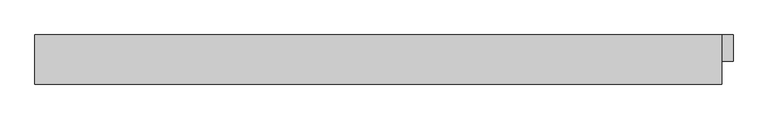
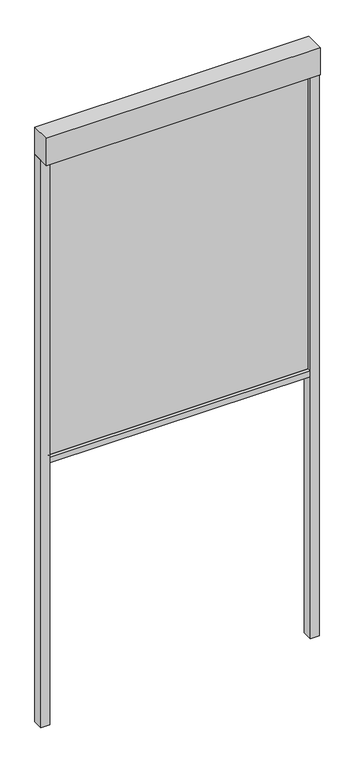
"""IFC4 building model written with IfcOpenShell, lengths in millimetres: proxy geometry, Renson_Fixscreen_Minimal_CW50_Start : For curtain wall - Start element - Access downwards - Fabric close to the window."""

from ifc_helpers import new_model, si_unit, point, frame, frame_2d, origin, origin_with_axes, place, context, project, spatial, polyline, circle_curve, trimmed, segment, composite_curve, outline, extrude, source, transform, mapped, element, save


def generic_models_2005cc21(model_context):
    return source(origin(), model_context, "Body", "SweptSolid", [
        extrude(outline(polyline([(-970.0, -751.5959909), (-1020.0, -751.5959909), (-1020.0, -693.5959909), (-970.0, -693.5959909), (-970.0, -751.5959909)])), origin_with_axes(), (0.0, 0.0, 1.0), 3340.0),
        extrude(outline(polyline([(530.0, -751.5959909), (480.0, -751.5959909), (480.0, -693.5959909), (530.0, -693.5959909), (530.0, -751.5959909)])), origin_with_axes(), (0.0, 0.0, 1.0), 3340.0),
        extrude(outline(polyline([(-1020.0, -693.5959909), (505.0, -693.5959909), (505.0, -803.5959909), (-1020.0, -803.5959909), (-1020.0, -693.5959909)])), frame((0.0, 0.0, 3340.0), z_axis=(0.0, 0.0, 1.0), x_axis=(1.0, 0.0, 0.0)), (0.0, 0.0, 1.0), 160.0),
        extrude(outline(composite_curve([segment(polyline([(-708.5959909, 1540.0), (-749.0958874, 1540.0), (-749.0958874, 1574.1156826), (-731.9717779, 1575.0000198)]), True, "CONTINUOUS"), segment(trimmed(circle_curve(frame_2d((-731.9459909, 1574.5006852)), 0.5), [point((-731.9717779, 1575.0000198))], [point((-731.4459909, 1574.5006852))], False, "CARTESIAN"), True, "CONTINUOUS"), segment(polyline([(-731.4459909, 1574.5006852), (-731.4459909, 1573.5367989), (-732.7111292, 1573.5367989), (-731.9708257, 1569.0119223)]), True, "CONTINUOUS"), segment(trimmed(circle_curve(frame_2d((-771.4459909, 1562.5534911)), 40.0), [point((-731.9708257, 1569.0119223))], [point((-731.4459909, 1562.5534911))], False, "CARTESIAN"), True, "CONTINUOUS"), segment(polyline([(-731.4459909, 1562.5534911), (-731.4459909, 1554.5006852)]), True, "CONTINUOUS"), segment(trimmed(circle_curve(frame_2d((-729.4459909, 1554.5006852)), 2.0), [point((-731.4459909, 1554.5006852))], [point((-729.4459909, 1552.5006852))], True, "CARTESIAN"), True, "CONTINUOUS"), segment(polyline([(-729.4459909, 1552.5006852), (-727.7459909, 1552.5006852)]), True, "CONTINUOUS"), segment(trimmed(circle_curve(frame_2d((-727.7459909, 1554.5006852)), 2.0), [point((-727.7459909, 1552.5006852))], [point((-725.7459909, 1554.5006852))], True, "CARTESIAN"), True, "CONTINUOUS"), segment(polyline([(-725.7459909, 1554.5006852), (-725.7459909, 1562.5534911)]), True, "CONTINUOUS"), segment(trimmed(circle_curve(frame_2d((-685.7459909, 1562.5534911)), 40.0), [point((-725.7459909, 1562.5534911))], [point((-725.221156, 1569.0119223))], False, "CARTESIAN"), True, "CONTINUOUS"), segment(polyline([(-725.221156, 1569.0119223), (-724.4808525, 1573.5367989), (-725.7459909, 1573.5367989), (-725.7459909, 1574.5006852)]), True, "CONTINUOUS"), segment(trimmed(circle_curve(frame_2d((-725.2459909, 1574.5006852)), 0.5), [point((-725.7459909, 1574.5006852))], [point((-725.2194276, 1574.9999791))], False, "CARTESIAN"), True, "CONTINUOUS"), segment(polyline([(-725.2194276, 1574.9999791), (-708.5959909, 1574.1156826), (-708.5959909, 1540.0)]), True, "CONTINUOUS")], self_intersect=False)), frame((-970.0, 0.0, 0.0), z_axis=(1.0, 0.0, 0.0), x_axis=(0.0, 1.0, 0.0)), (0.0, 0.0, 1.0), 1450.0),
        extrude(outline(polyline([(-970.0, -730.0959909), (-970.0, -727.0959909), (480.0, -727.0959909), (480.0, -730.0959909), (-970.0, -730.0959909)])), frame((0.0, 0.0, 1552.5006852), z_axis=(0.0, 0.0, 1.0), x_axis=(1.0, 0.0, 0.0)), (0.0, 0.0, 1.0), 1787.4993148),
    ])


if __name__ == "__main__":
    model = new_model("IFC4")
    model_context = context("Model", 3, world=origin())
    ifc_project = project(units=[si_unit("LENGTHUNIT", "METRE", prefix="MILLI")], contexts=[model_context])
    site = spatial("IfcSite", under=ifc_project)
    building = spatial("IfcBuilding", under=site)
    placement = place(None, origin())
    generic_models_shape = generic_models_2005cc21(model_context)
    element("IfcBuildingElementProxy", 1, Name="Renson_Fixscreen_Minimal_CW50_Start : For curtain wall - Start element - Access downwards - Fabric close to the window", ObjectType="Renson_Fixscreen_Minimal_CW50_Start : For curtain wall - Start element - Access downwards - Fabric close to the window", at=placement, inside=building, context=model_context, shape_type="MappedRepresentation", body=[
        mapped(generic_models_shape, transform((0.0, 0.0, 0.0), x_axis=(1.0, 0.0, 0.0), y_axis=(0.0, 1.0, 0.0), z_axis=(0.0, 0.0, 1.0))),
    ])
    save(model, "model.ifc")
